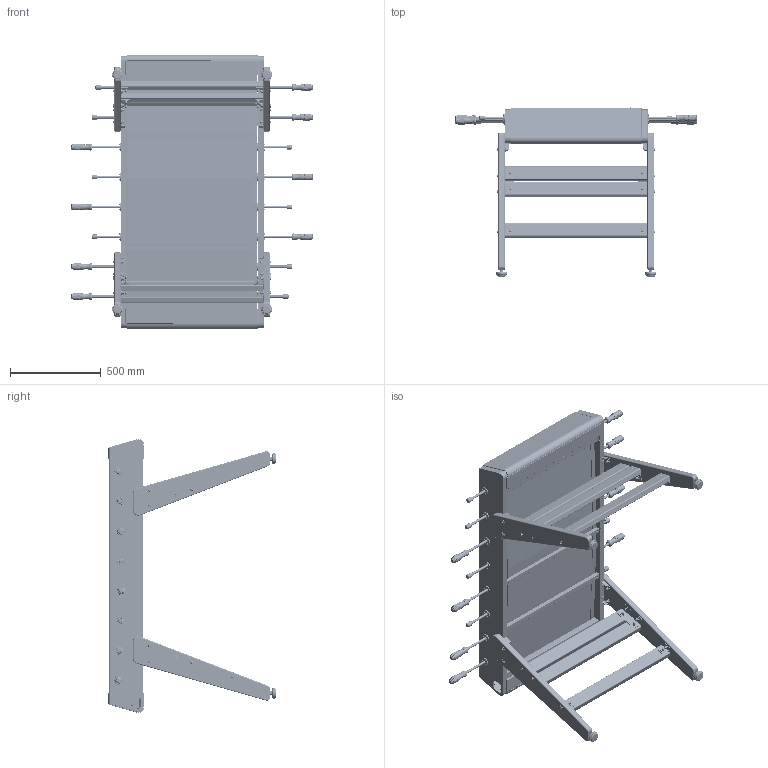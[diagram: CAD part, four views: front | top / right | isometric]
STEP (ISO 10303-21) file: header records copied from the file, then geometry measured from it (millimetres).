
FILE_DESCRIPTION (( 'STEP AP203' ), '1' );
FILE_NAME ('RS3W-2-C1-STD.STEP', '2021-04-14T10:43:11', ( '' ), ( '' ), 'SwSTEP 2.0', 'SolidWorks 2020', '' );
FILE_SCHEMA (( 'CONFIG_CONTROL_DESIGN' ));
Length unit declared in the file: millimetre
Products named in the file (70): TOPE PORTERO; 200015; 200033; 300019; 200038 S; 200010; 200009; 200022; REMACHE MULTIGRIP CABEZA ALOMADA_10014; 200016; 200020; 200001; 200018; 200003; ARANDELA DENTADA DIN 6798_10016; 10008; 200019; 200035; 200017; 200032; 200037; 10009; 300005; TUERCA REMACHABLE VALONA_10000; 200004; 200034; 200024; 200026; 200008; 200036; ARANDELA PLÁSTICO; 200029; 200025; 300016; 200011; 200005; TORNILLO DIN 7983_10007; 200038; 300000; 300003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
Assembly tree (242 placements, depth 5):
  RS3W-2-C1-STD
    300020
      300005
        300000
          200001
          200000
          TUERCA REMACHABLE VALONA_10000  x4
        300001
          200003
          200002
      300002
        200005
        200006_PredeterminadoSM-CHAPA-DESPLEGADA
        200007
        200004  x2
      200011  x2
      300017
        300001
          200003
          200002
        300016
          200000
          200032
          TUERCA REMACHABLE VALONA_10000  x4
      200010  x2
      200009
      10008  x16
        10008
        10009
        TORNILLO ISO 7380_10017
      300003
        200005
        200006_PredeterminadoSM-CHAPA-DESPLEGADA
        200004  x2
        200008
      300007  x2
        200014
        200016
        200017
        300008
          200015
          200036  x2
        REMACHE MULTIGRIP CABEZA ALOMADA_10014
    300009  x2
      200021
      200018
      200019
      200020
      200022
      200025
      200024
      200029
      10018
        TORNILLO ISO 7380_M8X16
        ARANDELA DIN 9021_M8x18
      ARANDELA DIN 9021_10005
      TORNILLO ISO 7380_10006
      TUERCA CIEGA DIN 1587_10004
      TORNILLO DIN 7983_10007
    300012
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Bounding box: 1338.62 x 930.99 x 1511.88 mm (x, y, z)
Volume: 39160826.5 mm3; surface area: 12029936.5 mm2
Topology: 418 solids, 418 shells, 10286 faces, 24898 edges, 15494 vertices
Faces by surface type: plane 5125, cylinder 3242, cone 816, torus 744, bspline 247, sphere 112
Entity records: 105843 total; most frequent: CARTESIAN_POINT 26594, ORIENTED_EDGE 13960, DIRECTION 13784, EDGE_CURVE 6980, VECTOR 4756, LINE 4756, AXIS2_PLACEMENT_3D 4514, VERTEX_POINT 4375
